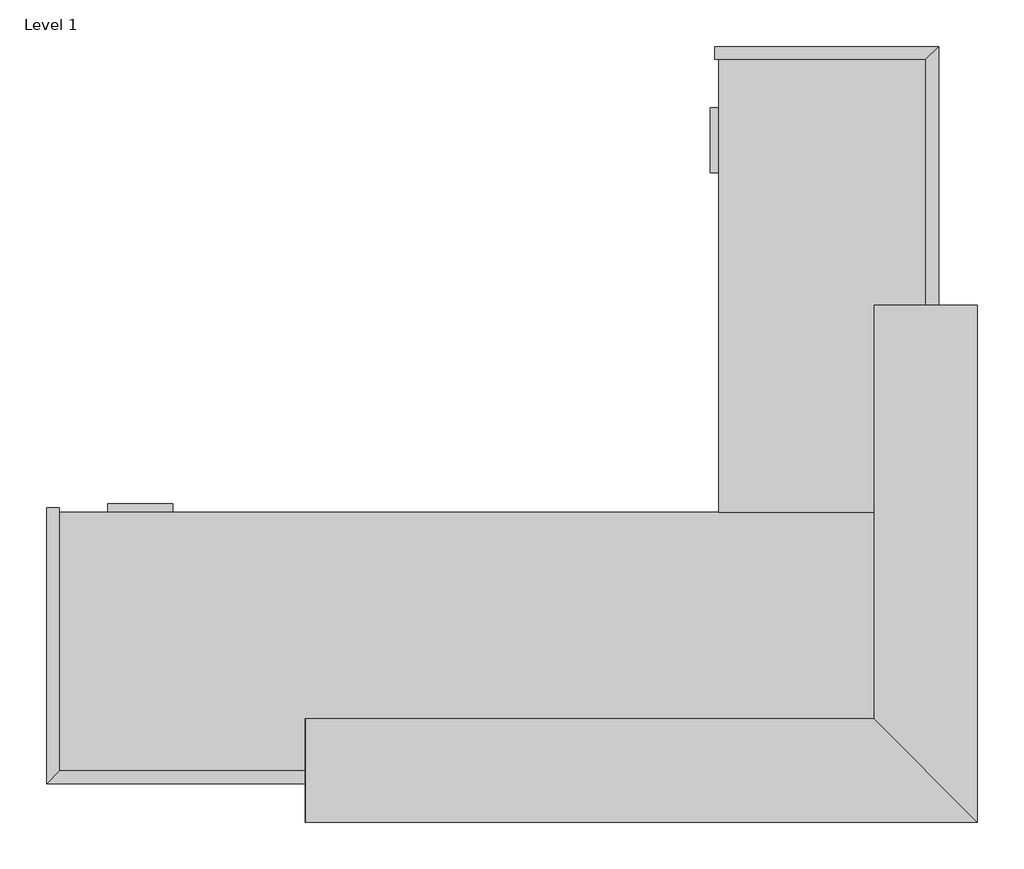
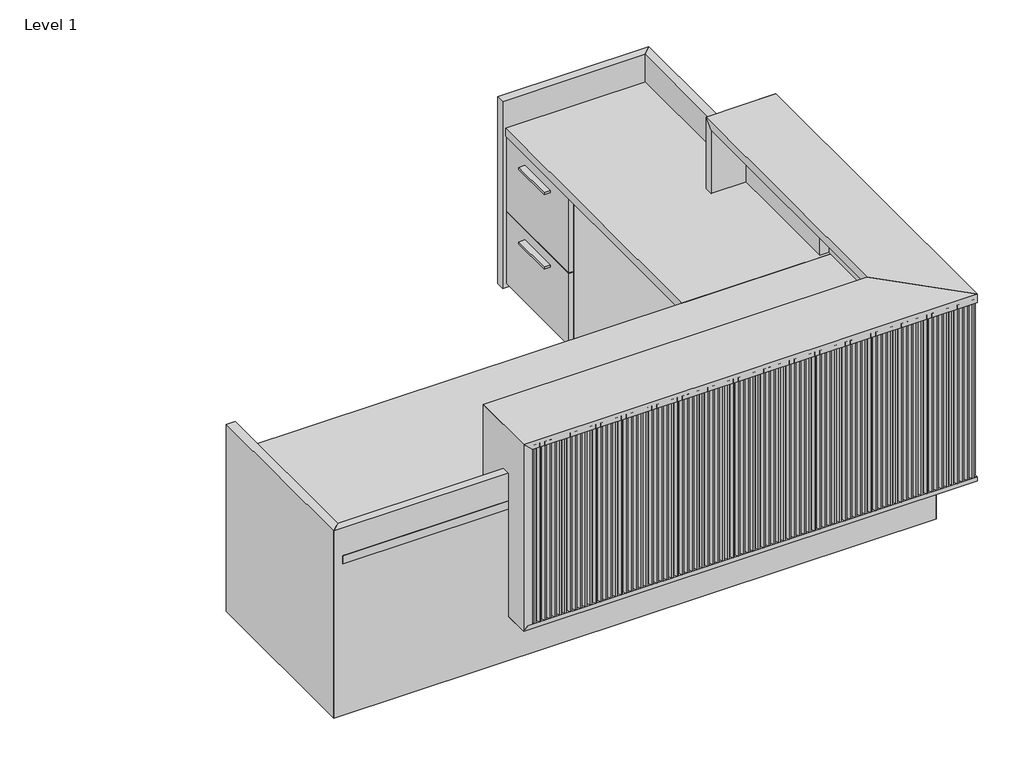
# One storey: 7 proxies.
"""IFC4 building model written with IfcOpenShell, lengths in millimetres."""

from ifc_helpers import new_model, si_unit, origin, place, context, project, spatial, transform, mapped, element, save
from components import generic_models_16f8150b, generic_models_9445e358, generic_models_e0b08976

model = new_model("IFC4")

# Units and contexts
model_context = context("Model", 3, world=origin())
ifc_project = project(units=[si_unit("LENGTHUNIT", "METRE", prefix="MILLI")], contexts=[model_context])

# Site, building, storey
site = spatial("IfcSite", under=ifc_project)
building = spatial("IfcBuilding", under=site)
storey = spatial("IfcBuildingStorey", under=building, Name="Level 1", Elevation=0.0)

# Proxies
placement = place(None, origin())
generic_models_shape = generic_models_16f8150b(model_context)
element("IfcBuildingElementProxy", 1, Name="HAFELE 102.12.004-7_5 INCH", ObjectType="HAFELE 102.12.004-7_5 INCH", at=placement, inside=storey, context=model_context, shape_type="MappedRepresentation", body=[
    mapped(generic_models_shape, transform((2009.775, -137.4775, 640.87375), x_axis=(0.0, -1.0, 0.0), y_axis=(0.0, 0.0, 1.0), z_axis=(-1.0, 0.0, 0.0))),
])
element("IfcBuildingElementProxy", 2, Name="HAFELE 102.12.004-7_5 INCH", ObjectType="HAFELE 102.12.004-7_5 INCH", at=placement, inside=storey, context=model_context, shape_type="MappedRepresentation", body=[
    mapped(generic_models_shape, transform((414.9725, -1400.175, 469.026875), x_axis=(-1.0, 0.0, 0.0), y_axis=(0.0, 0.0, 1.0), z_axis=(0.0, 1.0, 0.0))),
])
element("IfcBuildingElementProxy", 3, Name="HAFELE 102.12.004-7_5 INCH", ObjectType="HAFELE 102.12.004-7_5 INCH", at=placement, inside=storey, context=model_context, shape_type="MappedRepresentation", body=[
    mapped(generic_models_shape, transform((414.9725, -1400.175, 297.18), x_axis=(-1.0, 0.0, 0.0), y_axis=(0.0, 0.0, 1.0), z_axis=(0.0, 1.0, 0.0))),
])
element("IfcBuildingElementProxy", 4, Name="HAFELE 102.12.004-7_5 INCH", ObjectType="HAFELE 102.12.004-7_5 INCH", at=placement, inside=storey, context=model_context, shape_type="MappedRepresentation", body=[
    mapped(generic_models_shape, transform((2009.775, -137.4775, 297.18), x_axis=(0.0, -1.0, 0.0), y_axis=(0.0, 0.0, 1.0), z_axis=(-1.0, 0.0, 0.0))),
])
element("IfcBuildingElementProxy", 5, Name="HAFELE 102.12.004-7_5 INCH", ObjectType="HAFELE 102.12.004-7_5 INCH", at=placement, inside=storey, context=model_context, shape_type="MappedRepresentation", body=[
    mapped(generic_models_shape, transform((414.9725, -1400.175, 640.87375), x_axis=(-1.0, 0.0, 0.0), y_axis=(0.0, 0.0, 1.0), z_axis=(0.0, 1.0, 0.0))),
])
generic_models_2_shape = generic_models_9445e358(model_context)
element("IfcBuildingElementProxy", 6, Name="SALUTE^ADMIN 4_60x78 BATTEN L-SHAPED TRANS-SOLID ASSEMBLY", ObjectType="SALUTE^ADMIN 4_60x78 BATTEN L-SHAPED TRANS-SOLID ASSEMBLY", at=placement, inside=storey, context=model_context, shape_type="MappedRepresentation", body=[
    mapped(generic_models_2_shape, transform((1757.7724137, -1524.0, 638.7570703), x_axis=(1.0, 0.0, 0.0), y_axis=(0.0, 0.0, 1.0), z_axis=(0.0, -1.0, 0.0))),
])
generic_models_3_shape = generic_models_e0b08976(model_context)
element("IfcBuildingElementProxy", 7, Name="SALUTE^RECEPT_L SHAPED-PARTS SOLID", ObjectType="SALUTE^RECEPT_L SHAPED-PARTS SOLID", at=placement, inside=storey, context=model_context, shape_type="MappedRepresentation", body=[
    mapped(generic_models_3_shape, transform((0.0, -2133.6, 0.0), x_axis=(1.0, 0.0, 0.0), y_axis=(0.0, 0.0, 1.0), z_axis=(0.0, -1.0, 0.0))),
])

save(model, "model.ifc")
